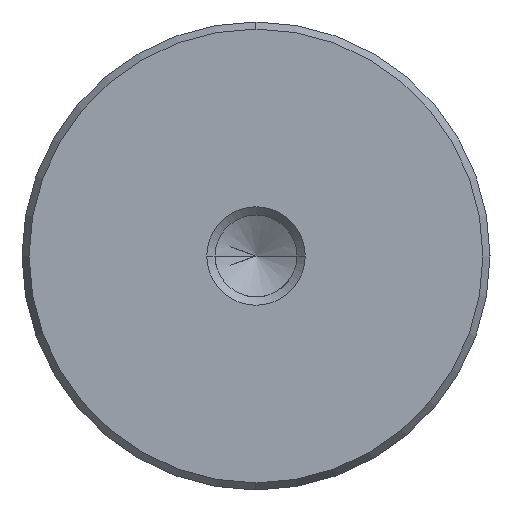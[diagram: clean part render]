
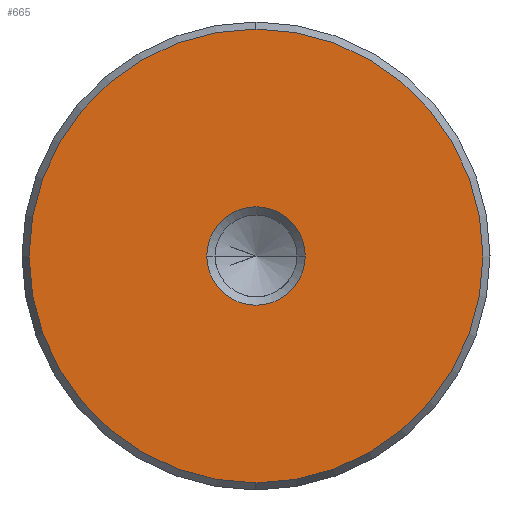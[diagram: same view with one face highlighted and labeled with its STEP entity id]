
A CAD part, left-side view. The second image highlights one B-rep face of the part: STEP entity #665.
In plain terms, the highlighted planar face has unit normal (-1, 0, 0).
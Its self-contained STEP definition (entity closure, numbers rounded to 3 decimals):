
#579=CARTESIAN_POINT('Vertex',(0.,0.,-18.423)) ;
#582=CARTESIAN_POINT('Axis2P3D Location',(0.,0.,0.)) ;
#586=CARTESIAN_POINT('Vertex',(0.,18.423,0.)) ;
#589=CARTESIAN_POINT('Axis2P3D Location',(0.,0.,0.)) ;
#593=CARTESIAN_POINT('Vertex',(0.,0.,18.423)) ;
#615=CARTESIAN_POINT('Axis2P3D Location',(0.,0.,0.)) ;
#619=CARTESIAN_POINT('Vertex',(0.,-18.423,0.)) ;
#622=CARTESIAN_POINT('Axis2P3D Location',(0.,0.,0.)) ;
#636=CARTESIAN_POINT('Axis2P3D Location',(0.,0.,0.)) ;
#647=CARTESIAN_POINT('Axis2P3D Location',(0.,0.,0.)) ;
#651=CARTESIAN_POINT('Vertex',(0.,4.,0.)) ;
#653=CARTESIAN_POINT('Vertex',(0.,-4.,0.)) ;
#656=CARTESIAN_POINT('Axis2P3D Location',(0.,0.,0.)) ;
#583=DIRECTION('Axis2P3D Direction',(1.,0.,-0.)) ;
#590=DIRECTION('Axis2P3D Direction',(1.,0.,-0.)) ;
#616=DIRECTION('Axis2P3D Direction',(1.,0.,-0.)) ;
#623=DIRECTION('Axis2P3D Direction',(1.,0.,-0.)) ;
#637=DIRECTION('Axis2P3D Direction',(1.,0.,-0.)) ;
#638=DIRECTION('Axis2P3D XDirection',(-0.,0.,-1.)) ;
#648=DIRECTION('Axis2P3D Direction',(1.,0.,-0.)) ;
#657=DIRECTION('Axis2P3D Direction',(1.,0.,-0.)) ;
#584=AXIS2_PLACEMENT_3D('Circle Axis2P3D',#582,#583,$) ;
#591=AXIS2_PLACEMENT_3D('Circle Axis2P3D',#589,#590,$) ;
#617=AXIS2_PLACEMENT_3D('Circle Axis2P3D',#615,#616,$) ;
#624=AXIS2_PLACEMENT_3D('Circle Axis2P3D',#622,#623,$) ;
#639=AXIS2_PLACEMENT_3D('Plane Axis2P3D',#636,#637,#638) ;
#649=AXIS2_PLACEMENT_3D('Circle Axis2P3D',#647,#648,$) ;
#658=AXIS2_PLACEMENT_3D('Circle Axis2P3D',#656,#657,$) ;
#642=ORIENTED_EDGE('',*,*,#588,.F.) ;
#643=ORIENTED_EDGE('',*,*,#626,.F.) ;
#644=ORIENTED_EDGE('',*,*,#621,.F.) ;
#645=ORIENTED_EDGE('',*,*,#595,.F.) ;
#662=ORIENTED_EDGE('',*,*,#655,.T.) ;
#663=ORIENTED_EDGE('',*,*,#660,.T.) ;
#664=FACE_BOUND('',#661,.T.) ;
#665=ADVANCED_FACE('720-38x355',(#646,#664),#640,.F.) ;
#585=CIRCLE('generated circle',#584,18.423) ;
#592=CIRCLE('generated circle',#591,18.423) ;
#618=CIRCLE('generated circle',#617,18.423) ;
#625=CIRCLE('generated circle',#624,18.423) ;
#650=CIRCLE('generated circle',#649,4.) ;
#659=CIRCLE('generated circle',#658,4.) ;
#588=EDGE_CURVE('',#580,#587,#585,.T.) ;
#595=EDGE_CURVE('',#587,#594,#592,.T.) ;
#621=EDGE_CURVE('',#594,#620,#618,.T.) ;
#626=EDGE_CURVE('',#620,#580,#625,.T.) ;
#655=EDGE_CURVE('',#652,#654,#650,.T.) ;
#660=EDGE_CURVE('',#654,#652,#659,.T.) ;
#641=EDGE_LOOP('',(#642,#643,#644,#645)) ;
#661=EDGE_LOOP('',(#662,#663)) ;
#646=FACE_OUTER_BOUND('',#641,.T.) ;
#640=PLANE('Plane',#639) ;
#580=VERTEX_POINT('',#579) ;
#587=VERTEX_POINT('',#586) ;
#594=VERTEX_POINT('',#593) ;
#620=VERTEX_POINT('',#619) ;
#652=VERTEX_POINT('',#651) ;
#654=VERTEX_POINT('',#653) ;
